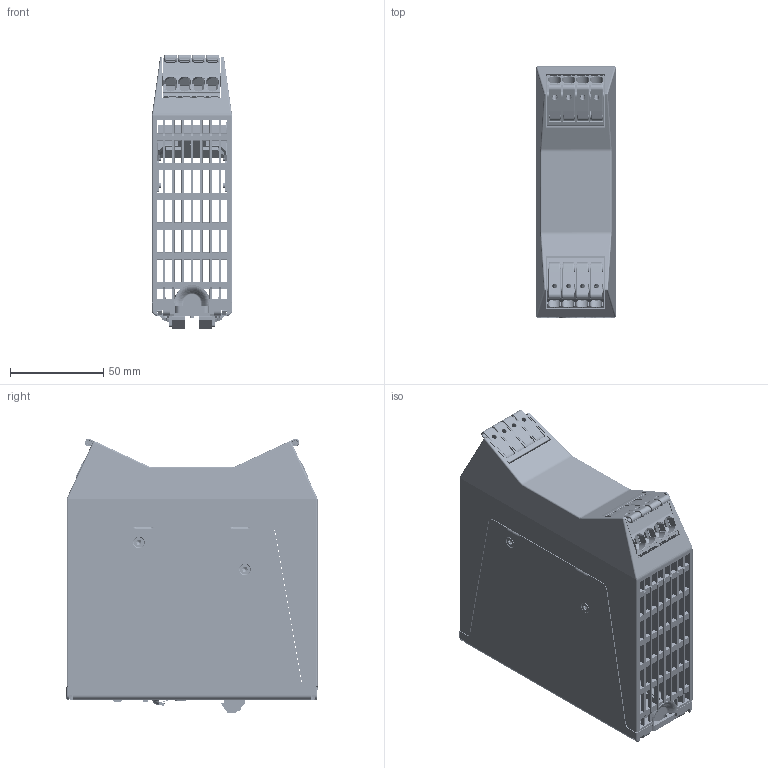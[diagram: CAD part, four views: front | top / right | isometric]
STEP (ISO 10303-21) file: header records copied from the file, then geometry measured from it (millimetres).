
FILE_DESCRIPTION (( 'STEP AP214' ), '1' );
FILE_NAME ('RACPRO1-RPD40.STEP', '2025-04-16T16:07:56', ( '' ), ( '' ), 'SwSTEP 2.0', 'SolidWorks 2022', '' );
FILE_SCHEMA (( 'AUTOMOTIVE_DESIGN' ));
Length unit declared in the file: millimetre
Products named in the file (32): SHUANGCHUZHEN1_2_1_1_1.stp; TLM-419RB-2170-04P(K)-C01.stp; ASM0002_ASM_ASM_ASM_ASM_1_ASM.stp; BN 4851 3271472 Senkkopfschraube Torx M3x5; ZHUTI_122_1_15_12.stp; TLM-405R-XXP-X_ASM_ASM_10_ASM_A_ASM.stp; SHOUBING_21_1_6_8.stp; PRT0032.stp; GAIBAN-11_2_3.stp; ASM0001_ASM_ASM_ASM_ASM_1_ASM.stp; RACPRO1-RPD40; SHOUWEIZHUTI_31_1_6_7.stp; TLM-405R-XXP-X_ASM_1_ASM_1_ASM__ASM.stp; M10716-0001 heatsink RPD40; M10627-0002_Slider; M10729-0001_Isolierfolie; M10677-0001_DINrail_spring; M10631-0002_Housing240W_Redundanzmodul; S10019-0001_housingVLB43; M10640-0001_front cover 240W_Redundanzmodul; Senkkopfschraube Torx M3x5
Assembly tree (48 placements, depth 7):
  RACPRO1-RPD40
    M10716-0001 heatsink RPD40
    S10019-0001_housingVLB43
      M10631-0002_Housing240W_Redundanzmodul
      M10677-0001_DINrail_spring  x2
    BN 4851 3271472 Senkkopfschraube Torx M3x5  x3
    Senkkopfschraube Torx M3x5
    M10729-0001_Isolierfolie
    M10640-0001_front cover 240W_Redundanzmodul
    M10627-0002_Slider
    TLM-419RB-2170-04P(K)-C01.stp
      TLM-405R-XXP-X_ASM_ASM_10_ASM_A_ASM.stp
        TLM-405R-XXP-X_ASM_1_ASM_1_ASM__ASM.stp
          ASM0001_ASM_ASM_ASM_ASM_1_ASM.stp
            ASM0002_ASM_ASM_ASM_ASM_1_ASM.stp
              ZHUTI_122_1_15_12.stp  x3
              SHOUBING_21_1_6_8.stp  x4
              SHOUWEIZHUTI_31_1_6_7.stp
            SHUANGCHUZHEN1_2_1_1_1.stp  x2
        GAIBAN-11_2_3.stp
      PRT0032.stp  x2
    TLM-419RB-2170-04P(K)-C01.stp
      TLM-405R-XXP-X_ASM_ASM_10_ASM_A_ASM.stp
        TLM-405R-XXP-X_ASM_1_ASM_1_ASM__ASM.stp
          ASM0001_ASM_ASM_ASM_ASM_1_ASM.stp
            ASM0002_ASM_ASM_ASM_ASM_1_ASM.stp
              ZHUTI_122_1_15_12.stp  x3
              SHOUBING_21_1_6_8.stp  x4
              SHOUWEIZHUTI_31_1_6_7.stp
            SHUANGCHUZHEN1_2_1_1_1.stp  x2
        GAIBAN-11_2_3.stp
      PRT0032.stp  x2
Bounding box: 43 x 135.08 x 147.57 mm (x, y, z)
Volume: 113977.1 mm3; surface area: 154980.6 mm2
Topology: 37 solids, 79 shells, 8137 faces, 21506 edges, 13495 vertices
Faces by surface type: plane 3286, cylinder 3006, cone 868, torus 791, sphere 112, bspline 74
Entity records: 151356 total; most frequent: CARTESIAN_POINT 32917, ORIENTED_EDGE 24846, DIRECTION 24652, EDGE_CURVE 12423, AXIS2_PLACEMENT_3D 8508, VERTEX_POINT 7883, VECTOR 7636, LINE 7636
